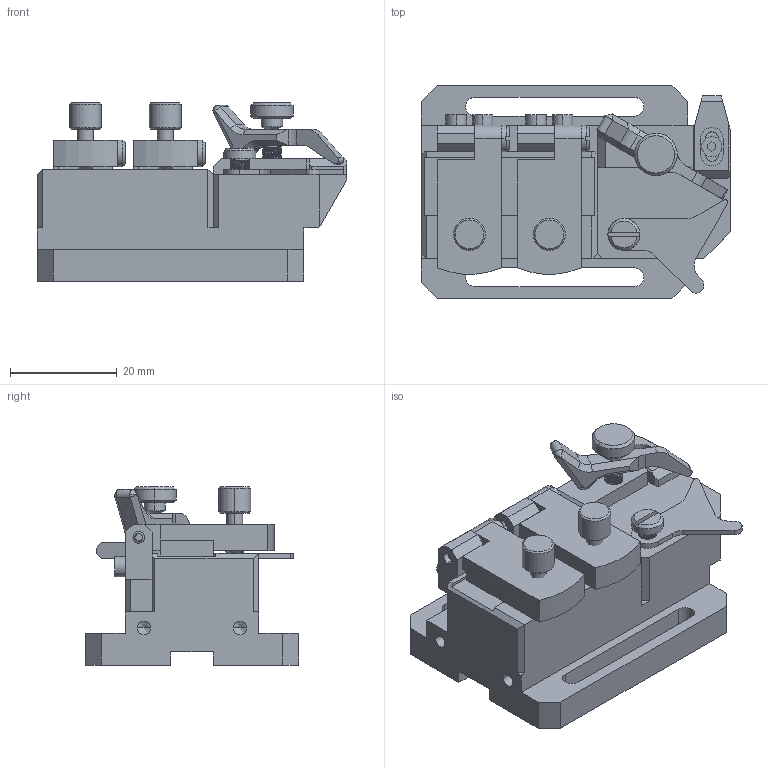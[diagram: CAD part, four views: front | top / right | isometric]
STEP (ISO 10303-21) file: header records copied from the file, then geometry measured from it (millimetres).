
FILE_DESCRIPTION (( 'STEP AP203' ), '1' );
FILE_NAME ('F267-L.STEP', '2024-12-13T06:43:08', ( '' ), ( '' ), 'SwSTEP 2.0', 'SolidWorks 2017', '' );
FILE_SCHEMA (( 'CONFIG_CONTROL_DESIGN' ));
Length unit declared in the file: millimetre
Products named in the file (14): F267-L-prt5_1; F267-L-prt11_1; F267-L-prt0_1; F267-L-prt4_1; F267-L-prt10_1; F267-L-prt7_1; F267-L-prt8_1; F267-L-prt9_1; F267-L; F267-L-prt12_1; F267-L-prt3_1; F267-L-prt6_1; F267-L-prt2_1; F267-L-prt1_1
Assembly tree (13 placements, depth 2):
  F267-L
    F267-L-prt0_1
    F267-L-prt1_1
    F267-L-prt2_1
    F267-L-prt3_1
    F267-L-prt4_1
    F267-L-prt5_1
    F267-L-prt6_1
    F267-L-prt7_1
    F267-L-prt8_1
    F267-L-prt9_1
    F267-L-prt10_1
    F267-L-prt11_1
    F267-L-prt12_1
Bounding box: 58 x 40 x 33.5 mm (x, y, z)
Volume: 32578 mm3; surface area: 14402 mm2
Topology: 13 solids, 13 shells, 484 faces, 1161 edges, 738 vertices
Faces by surface type: plane 303, cylinder 127, bspline 46, cone 7, sphere 1
Entity records: 17266 total; most frequent: CARTESIAN_POINT 4482, DIRECTION 2358, ORIENTED_EDGE 2300, EDGE_CURVE 1150, LINE 800, VECTOR 800, AXIS2_PLACEMENT_3D 779, VERTEX_POINT 738
